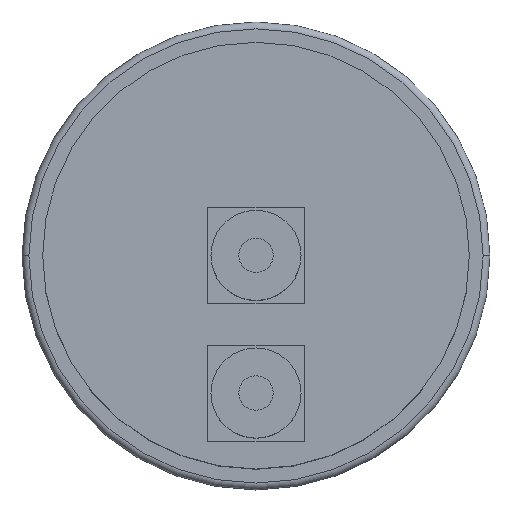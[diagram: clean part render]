
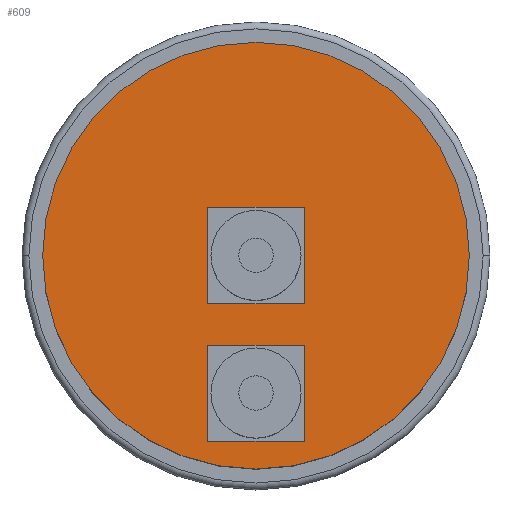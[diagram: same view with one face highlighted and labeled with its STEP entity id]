
A CAD part, top view. The second image highlights one B-rep face of the part: STEP entity #609.
In plain terms, the highlighted planar face has unit normal (0, 0, 1).
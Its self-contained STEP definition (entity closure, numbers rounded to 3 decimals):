
#8 = EDGE_CURVE ( 'NONE', #158, #139, #173, .T. ) ;
#10 = DIRECTION ( 'NONE',  ( 1., 0., 0. ) ) ;
#40 = EDGE_CURVE ( 'NONE', #320, #871, #305, .T. ) ;
#42 = LINE ( 'NONE', #547, #597 ) ;
#44 = EDGE_CURVE ( 'NONE', #291, #349, #200, .T. ) ;
#64 = AXIS2_PLACEMENT_3D ( 'NONE', #118, #912, #395 ) ;
#79 = VERTEX_POINT ( 'NONE', #657 ) ;
#89 = CARTESIAN_POINT ( 'NONE',  ( 7., -13., 30.5 ) ) ;
#97 = VERTEX_POINT ( 'NONE', #717 ) ;
#118 = CARTESIAN_POINT ( 'NONE',  ( 0., 0., 30.5 ) ) ;
#125 = DIRECTION ( 'NONE',  ( 0., 1., 0. ) ) ;
#135 = EDGE_LOOP ( 'NONE', ( #276, #605, #894, #918 ) ) ;
#139 = VERTEX_POINT ( 'NONE', #325 ) ;
#146 = LINE ( 'NONE', #856, #901 ) ;
#158 = VERTEX_POINT ( 'NONE', #498 ) ;
#169 = EDGE_CURVE ( 'NONE', #567, #320, #146, .T. ) ;
#173 = LINE ( 'NONE', #294, #540 ) ;
#190 = CARTESIAN_POINT ( 'NONE',  ( 7., 7., 30.5 ) ) ;
#194 = LINE ( 'NONE', #190, #682 ) ;
#200 = CIRCLE ( 'NONE', #838, 31. ) ;
#201 = CARTESIAN_POINT ( 'NONE',  ( -7., -13., 30.5 ) ) ;
#228 = CARTESIAN_POINT ( 'NONE',  ( 7., -13., 30.5 ) ) ;
#266 = EDGE_LOOP ( 'NONE', ( #507, #396 ) ) ;
#276 = ORIENTED_EDGE ( 'NONE', *, *, #703, .F. ) ;
#285 = EDGE_LOOP ( 'NONE', ( #485, #727, #381, #442 ) ) ;
#291 = VERTEX_POINT ( 'NONE', #845 ) ;
#294 = CARTESIAN_POINT ( 'NONE',  ( -7., -7., 30.5 ) ) ;
#301 = EDGE_CURVE ( 'NONE', #79, #523, #365, .T. ) ;
#305 = LINE ( 'NONE', #89, #607 ) ;
#320 = VERTEX_POINT ( 'NONE', #628 ) ;
#325 = CARTESIAN_POINT ( 'NONE',  ( 7., -7., 30.5 ) ) ;
#336 = FACE_BOUND ( 'NONE', #135, .T. ) ;
#340 = DIRECTION ( 'NONE',  ( 0., -1., 0. ) ) ;
#346 = CIRCLE ( 'NONE', #702, 31. ) ;
#347 = DIRECTION ( 'NONE',  ( 0., -1., 0. ) ) ;
#349 = VERTEX_POINT ( 'NONE', #437 ) ;
#363 = DIRECTION ( 'NONE',  ( 1., 0., 0. ) ) ;
#364 = LINE ( 'NONE', #201, #710 ) ;
#365 = LINE ( 'NONE', #568, #822 ) ;
#381 = ORIENTED_EDGE ( 'NONE', *, *, #169, .F. ) ;
#395 = DIRECTION ( 'NONE',  ( 1., 0., 0. ) ) ;
#396 = ORIENTED_EDGE ( 'NONE', *, *, #494, .T. ) ;
#419 = LINE ( 'NONE', #561, #827 ) ;
#437 = CARTESIAN_POINT ( 'NONE',  ( 31., 0., 30.5 ) ) ;
#442 = ORIENTED_EDGE ( 'NONE', *, *, #758, .F. ) ;
#443 = DIRECTION ( 'NONE',  ( 1., 0., 0. ) ) ;
#454 = DIRECTION ( 'NONE',  ( 0., 0., 1. ) ) ;
#485 = ORIENTED_EDGE ( 'NONE', *, *, #790, .F. ) ;
#494 = EDGE_CURVE ( 'NONE', #349, #291, #346, .T. ) ;
#498 = CARTESIAN_POINT ( 'NONE',  ( -7., -7., 30.5 ) ) ;
#507 = ORIENTED_EDGE ( 'NONE', *, *, #44, .T. ) ;
#517 = DIRECTION ( 'NONE',  ( 0., 0., 1. ) ) ;
#522 = DIRECTION ( 'NONE',  ( 1., 0., 0. ) ) ;
#523 = VERTEX_POINT ( 'NONE', #604 ) ;
#540 = VECTOR ( 'NONE', #443, 1000. ) ;
#547 = CARTESIAN_POINT ( 'NONE',  ( -7., 7., 30.5 ) ) ;
#561 = CARTESIAN_POINT ( 'NONE',  ( -7., -13., 30.5 ) ) ;
#567 = VERTEX_POINT ( 'NONE', #649 ) ;
#568 = CARTESIAN_POINT ( 'NONE',  ( -7., 7., 30.5 ) ) ;
#597 = VECTOR ( 'NONE', #340, 1000. ) ;
#604 = CARTESIAN_POINT ( 'NONE',  ( -7., 7., 30.5 ) ) ;
#605 = ORIENTED_EDGE ( 'NONE', *, *, #8, .F. ) ;
#607 = VECTOR ( 'NONE', #807, 1000. ) ;
#609 = ADVANCED_FACE ( 'NONE', ( #336, #829, #756 ), #754, .T. ) ;
#628 = CARTESIAN_POINT ( 'NONE',  ( 7., -27., 30.5 ) ) ;
#640 = CARTESIAN_POINT ( 'NONE',  ( 0., 0., 30.5 ) ) ;
#642 = DIRECTION ( 'NONE',  ( -1., 0., 0. ) ) ;
#649 = CARTESIAN_POINT ( 'NONE',  ( -7., -27., 30.5 ) ) ;
#651 = EDGE_CURVE ( 'NONE', #523, #158, #42, .T. ) ;
#657 = CARTESIAN_POINT ( 'NONE',  ( 7., 7., 30.5 ) ) ;
#682 = VECTOR ( 'NONE', #125, 1000. ) ;
#694 = DIRECTION ( 'NONE',  ( -1., 0., 0. ) ) ;
#702 = AXIS2_PLACEMENT_3D ( 'NONE', #886, #517, #522 ) ;
#703 = EDGE_CURVE ( 'NONE', #139, #79, #194, .T. ) ;
#710 = VECTOR ( 'NONE', #347, 1000. ) ;
#717 = CARTESIAN_POINT ( 'NONE',  ( -7., -13., 30.5 ) ) ;
#727 = ORIENTED_EDGE ( 'NONE', *, *, #40, .F. ) ;
#754 = PLANE ( 'NONE',  #64 ) ;
#756 = FACE_BOUND ( 'NONE', #285, .T. ) ;
#758 = EDGE_CURVE ( 'NONE', #97, #567, #364, .T. ) ;
#790 = EDGE_CURVE ( 'NONE', #871, #97, #419, .T. ) ;
#807 = DIRECTION ( 'NONE',  ( 0., 1., 0. ) ) ;
#822 = VECTOR ( 'NONE', #642, 1000. ) ;
#827 = VECTOR ( 'NONE', #694, 1000. ) ;
#829 = FACE_OUTER_BOUND ( 'NONE', #266, .T. ) ;
#838 = AXIS2_PLACEMENT_3D ( 'NONE', #640, #454, #10 ) ;
#845 = CARTESIAN_POINT ( 'NONE',  ( -31., 0., 30.5 ) ) ;
#856 = CARTESIAN_POINT ( 'NONE',  ( -7., -27., 30.5 ) ) ;
#871 = VERTEX_POINT ( 'NONE', #228 ) ;
#886 = CARTESIAN_POINT ( 'NONE',  ( 0., 0., 30.5 ) ) ;
#894 = ORIENTED_EDGE ( 'NONE', *, *, #651, .F. ) ;
#901 = VECTOR ( 'NONE', #363, 1000. ) ;
#912 = DIRECTION ( 'NONE',  ( 0., 0., 1. ) ) ;
#918 = ORIENTED_EDGE ( 'NONE', *, *, #301, .F. ) ;
